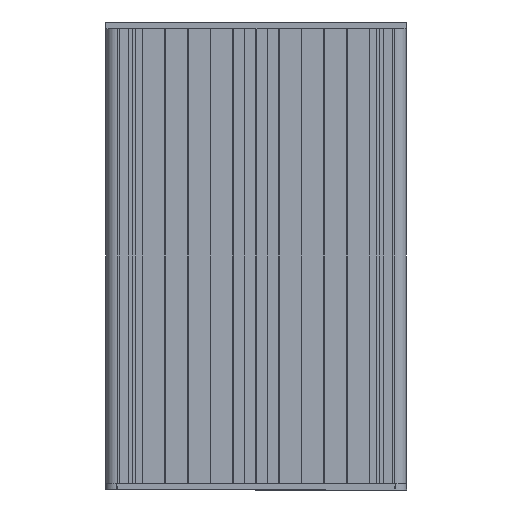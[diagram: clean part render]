
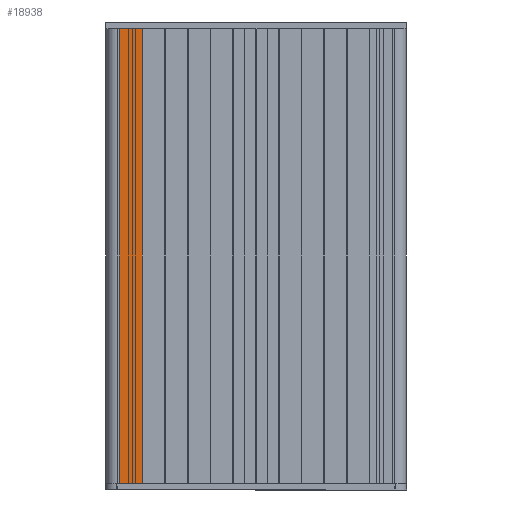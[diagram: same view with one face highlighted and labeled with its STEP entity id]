
A CAD part, left-side view. The second image highlights one B-rep face of the part: STEP entity #18938.
In plain terms, the highlighted planar face has unit normal (-1, 0, 0) as drawn and (0, -1, 0) by its records, which use the part's own axes.
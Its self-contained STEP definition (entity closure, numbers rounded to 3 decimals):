
#932 = VERTEX_POINT ( 'NONE', #40983 ) ;
#1500 = ORIENTED_EDGE ( 'NONE', *, *, #22417, .F. ) ;
#2300 = ORIENTED_EDGE ( 'NONE', *, *, #8407, .F. ) ;
#3791 = VECTOR ( 'NONE', #33957, 1000. ) ;
#4098 = VERTEX_POINT ( 'NONE', #15007 ) ;
#4892 = DIRECTION ( 'NONE',  ( 1., 0., 0. ) ) ;
#5786 = EDGE_CURVE ( 'NONE', #932, #8451, #23676, .T. ) ;
#6223 = DIRECTION ( 'NONE',  ( 1., 0., 0. ) ) ;
#8407 = EDGE_CURVE ( 'NONE', #31600, #8451, #36278, .T. ) ;
#8451 = VERTEX_POINT ( 'NONE', #17455 ) ;
#8502 = CARTESIAN_POINT ( 'NONE',  ( 1.2, -5., -100. ) ) ;
#15007 = CARTESIAN_POINT ( 'NONE',  ( 1.2, -5., 100. ) ) ;
#17239 = CARTESIAN_POINT ( 'NONE',  ( 8., -5., 100. ) ) ;
#17455 = CARTESIAN_POINT ( 'NONE',  ( 10.95, -5., -100. ) ) ;
#18938 = ADVANCED_FACE ( 'NONE', ( #35476 ), #38825, .T. ) ;
#19367 = ORIENTED_EDGE ( 'NONE', *, *, #5786, .T. ) ;
#22417 = EDGE_CURVE ( 'NONE', #4098, #31600, #32911, .T. ) ;
#23234 = DIRECTION ( 'NONE',  ( 1., 0., 0. ) ) ;
#23676 = LINE ( 'NONE', #32650, #36996 ) ;
#24234 = CARTESIAN_POINT ( 'NONE',  ( 10.95, -5., 100. ) ) ;
#25649 = CARTESIAN_POINT ( 'NONE',  ( 8., -5., -100. ) ) ;
#26033 = DIRECTION ( 'NONE',  ( 0., -1., 0. ) ) ;
#27723 = LINE ( 'NONE', #8502, #28449 ) ;
#28449 = VECTOR ( 'NONE', #30866, 1000. ) ;
#30866 = DIRECTION ( 'NONE',  ( 0., 0., 1. ) ) ;
#31207 = EDGE_LOOP ( 'NONE', ( #31653, #19367, #2300, #1500 ) ) ;
#31600 = VERTEX_POINT ( 'NONE', #24234 ) ;
#31653 = ORIENTED_EDGE ( 'NONE', *, *, #34874, .F. ) ;
#32650 = CARTESIAN_POINT ( 'NONE',  ( 8., -5., -100. ) ) ;
#32911 = LINE ( 'NONE', #17239, #35103 ) ;
#33957 = DIRECTION ( 'NONE',  ( 0., 0., -1. ) ) ;
#34874 = EDGE_CURVE ( 'NONE', #932, #4098, #27723, .T. ) ;
#35103 = VECTOR ( 'NONE', #4892, 1000. ) ;
#35476 = FACE_OUTER_BOUND ( 'NONE', #31207, .T. ) ;
#36278 = LINE ( 'NONE', #36905, #3791 ) ;
#36905 = CARTESIAN_POINT ( 'NONE',  ( 10.95, -5., -100. ) ) ;
#36996 = VECTOR ( 'NONE', #23234, 1000. ) ;
#38825 = PLANE ( 'NONE',  #40295 ) ;
#40295 = AXIS2_PLACEMENT_3D ( 'NONE', #25649, #26033, #6223 ) ;
#40983 = CARTESIAN_POINT ( 'NONE',  ( 1.2, -5., -100. ) ) ;
